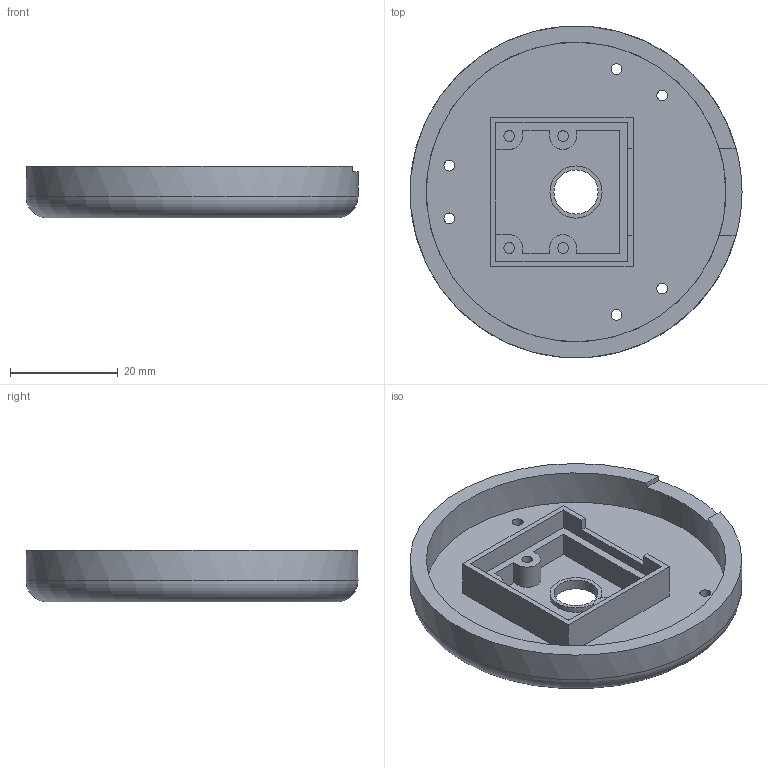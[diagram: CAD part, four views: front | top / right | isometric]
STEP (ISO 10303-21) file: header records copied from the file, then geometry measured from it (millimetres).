
FILE_DESCRIPTION(('FreeCAD Model'),'2;1');
FILE_NAME('Open CASCADE Shape Model','2026-09-18T10:48:36',('Author'),( ''),'Open CASCADE STEP processor 7.8','FreeCAD','Unknown');
FILE_SCHEMA(('AUTOMOTIVE_DESIGN { 1 0 10303 214 1 1 1 1 }'));
Length unit declared in the file: millimetre
Products named in the file (1): Body
Bounding box: 61.7 x 61.7 x 9.6 mm (x, y, z)
Volume: 11713.8 mm3; surface area: 10378.8 mm2
Topology: 1 solids, 1 shells, 69 faces, 164 edges, 109 vertices
Faces by surface type: plane 44, cylinder 24, torus 1
Full cylindrical faces by diameter (mm): 2 x10, 3.85 x6, 8.2 x1, 9.7 x1, 55.7 x1, 61.7 x1
Entity records: 2053 total; most frequent: DIRECTION 357, CARTESIAN_POINT 344, ORIENTED_EDGE 328, EDGE_CURVE 164, AXIS2_PLACEMENT_3D 124, VERTEX_POINT 109, LINE 109, VECTOR 109
